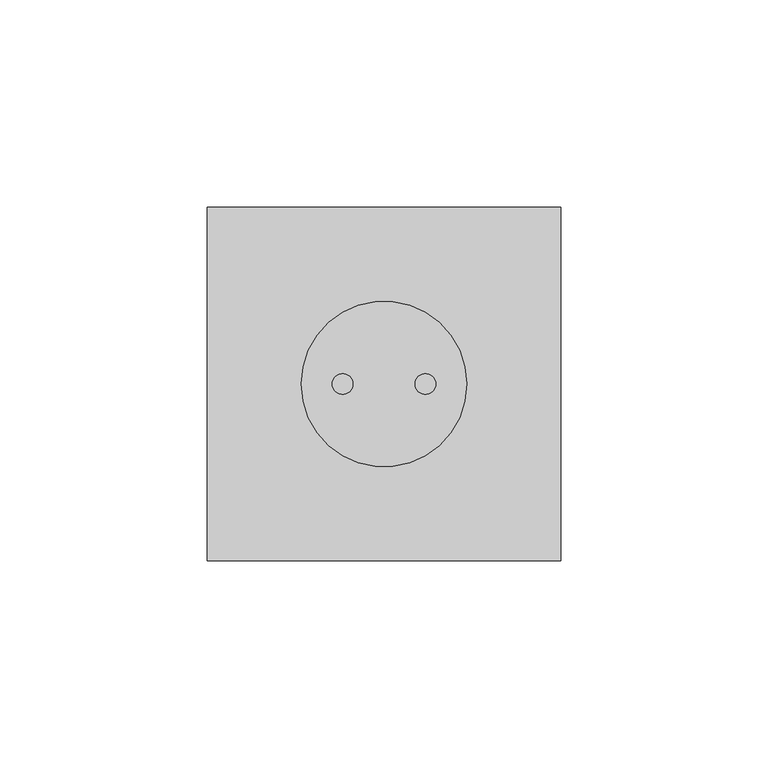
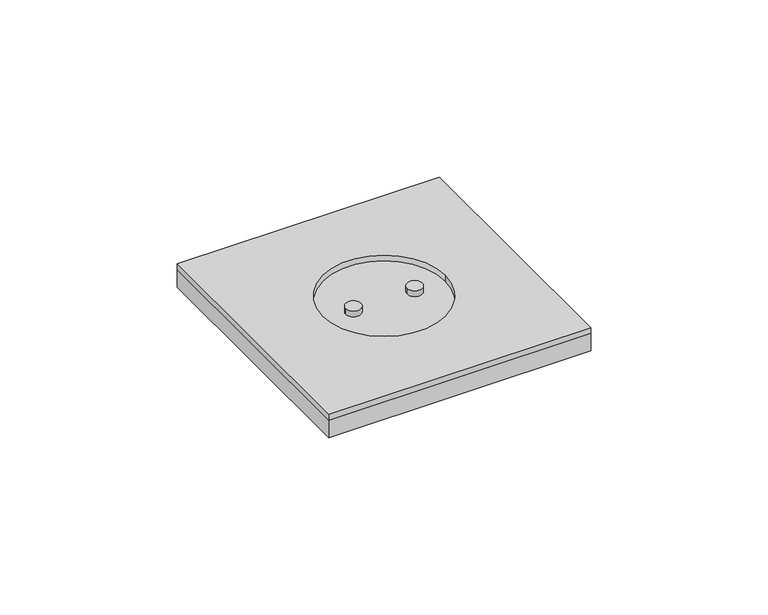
"""IFC4 building model written with IfcOpenShell, lengths in millimetres: proxy geometry, ZYR_05.02.02 Presa Terra : 03 Presa Previsió."""

import ifcopenshell
import ifcopenshell.guid

model = None  # the IFC model being written
_history = None  # IfcOwnerHistory: only IFC2X3 demands one
_inside = {}  # id of a spatial element -> (the spatial element, [elements in it])
_under = {}  # id of a project, library or spatial element -> (it, [spatial elements below it])
_declared = {}  # id of a project -> (the project, [libraries it declares])
_typed = {}  # id of a type object -> (the type object, [elements of that type])
_made_of = {}  # id of a material, layer set ... -> (it, [elements and type objects made of it])


def new_model(schema):
    """Start an empty IFC model of exactly this schema.

    Asked for "IFC4X3", IfcOpenShell would pick the latest addendum, in which some entities
    have other attributes; the version numbers below select the first issue.
    IFC2X3 requires an IfcOwnerHistory on every rooted entity: one is made here for all.
    """
    global model, _history
    if schema == "IFC4X3":
        model = ifcopenshell.file(schema_version=(4, 3, 0, 0))
    else:
        model = ifcopenshell.file(schema=schema)
    _inside.clear()
    _under.clear()
    _declared.clear()
    _typed.clear()
    _made_of.clear()
    _history = None
    if model.schema == "IFC2X3":
        org = make("IfcOrganization", Name="unknown")
        user = make(
            "IfcPersonAndOrganization",
            ThePerson=make("IfcPerson", FamilyName="unknown"),
            TheOrganization=org,
        )
        app = make(
            "IfcApplication",
            ApplicationDeveloper=org,
            Version="unknown",
            ApplicationFullName="unknown",
            ApplicationIdentifier="unknown",
        )
        _history = make(
            "IfcOwnerHistory",
            OwningUser=user,
            OwningApplication=app,
            ChangeAction="ADDED",
            CreationDate=0,
        )
    return model


def make(cls, **values):
    """One entity of the class cls with the attributes given. An attribute that is None is left unset."""
    return model.create_entity(
        cls, **{name: value for name, value in values.items() if value is not None}
    )


def rooted(cls, **values):
    """An entity with a GlobalId (a new one), such as an element, a storey or a relation."""
    return make(cls, GlobalId=ifcopenshell.guid.new(), OwnerHistory=_history, **values)


def si_unit(unit_type, name, prefix=None):
    """IfcSIUnit, for example si_unit("LENGTHUNIT", "METRE", prefix="MILLI")."""
    return make("IfcSIUnit", UnitType=unit_type, Prefix=prefix, Name=name)


def assignment(units):
    """IfcUnitAssignment: the units of a project."""
    return None if units is None else make("IfcUnitAssignment", Units=units)


def point(xyz):
    """IfcCartesianPoint."""
    return None if xyz is None else make("IfcCartesianPoint", Coordinates=xyz)


def direction(xyz):
    """IfcDirection."""
    return None if xyz is None else make("IfcDirection", DirectionRatios=xyz)


def frame(location, z_axis=None, x_axis=None):
    """IfcAxis2Placement3D, a coordinate frame: its origin and axes. An axis left out is left unset."""
    return make(
        "IfcAxis2Placement3D",
        Location=point(location),
        Axis=direction(z_axis),
        RefDirection=direction(x_axis),
    )


def frame_2d(location, x_axis=None):
    """IfcAxis2Placement2D, a coordinate frame in the plane: its origin and x axis."""
    return make(
        "IfcAxis2Placement2D", Location=point(location), RefDirection=direction(x_axis)
    )


def origin():
    """The frame at (0, 0, 0) with its axes left unset."""
    return frame((0.0, 0.0, 0.0))


def origin_with_axes():
    """The frame at (0, 0, 0) with the z axis (0, 0, 1) and the x axis (1, 0, 0) written out."""
    return frame((0.0, 0.0, 0.0), z_axis=(0.0, 0.0, 1.0), x_axis=(1.0, 0.0, 0.0))


def origin_2d():
    """The frame at (0, 0) in the plane with its x axis left unset."""
    return frame_2d((0.0, 0.0))


def place(relative_to, where):
    """IfcLocalPlacement: puts the frame where relative to a parent placement (None: the world)."""
    return make(
        "IfcLocalPlacement", PlacementRelTo=relative_to, RelativePlacement=where
    )


def context(
    kind, dimensions, precision=None, world=None, true_north=None, identifier=None
):
    """IfcGeometricRepresentationContext, for example the 3D "Model" context."""
    return make(
        "IfcGeometricRepresentationContext",
        ContextIdentifier=identifier,
        ContextType=kind,
        CoordinateSpaceDimension=dimensions,
        Precision=precision,
        WorldCoordinateSystem=world,
        TrueNorth=true_north,
    )


def project(units=None, contexts=None):
    """IfcProject with its units and contexts."""
    return rooted(
        "IfcProject",
        Name="project",
        RepresentationContexts=contexts,
        UnitsInContext=assignment(units),
    )


def spatial(cls, under=None, at=None, **own):
    """A site, building, storey or space (cls), placed at a placement, below another one or the project."""
    s = rooted(cls, ObjectPlacement=at, **own)
    if under is not None:
        _under.setdefault(under.id(), (under, []))[1].append(s)
    return s


def polyline(points):
    """IfcPolyline through the points."""
    return make("IfcPolyline", Points=[point(p) for p in points])


def circle_curve(where, radius):
    """IfcCircle in the frame where."""
    return make("IfcCircle", Position=where, Radius=radius)


def trimmed(basis, trim1, trim2, sense, master):
    """IfcTrimmedCurve: the piece of a basis curve between two trims."""
    return make(
        "IfcTrimmedCurve",
        BasisCurve=basis,
        Trim1=trim1,
        Trim2=trim2,
        SenseAgreement=sense,
        MasterRepresentation=master,
    )


def segment(curve, same_sense, transition):
    """IfcCompositeCurveSegment."""
    return make(
        "IfcCompositeCurveSegment",
        Transition=transition,
        SameSense=same_sense,
        ParentCurve=curve,
    )


def composite_curve(segments, self_intersect=None):
    """IfcCompositeCurve: segments joined end to end."""
    return make("IfcCompositeCurve", Segments=segments, SelfIntersect=self_intersect)


def outline(outer, holes=None, kind="AREA"):
    """IfcArbitraryClosedProfileDef: a profile drawn as a closed curve; with holes, ...WithVoids."""
    if holes is None:
        return make("IfcArbitraryClosedProfileDef", ProfileType=kind, OuterCurve=outer)
    return make(
        "IfcArbitraryProfileDefWithVoids",
        ProfileType=kind,
        OuterCurve=outer,
        InnerCurves=holes,
    )


def extrude(swept, where, along, depth):
    """IfcExtrudedAreaSolid: the profile swept, set in the frame where, extruded along a direction by depth."""
    return make(
        "IfcExtrudedAreaSolid",
        SweptArea=swept,
        Position=where,
        ExtrudedDirection=direction(along),
        Depth=depth,
    )


def shape(context_of_items, identifier, shape_type, items):
    """IfcShapeRepresentation: the items that make up one representation, for example the "Body"."""
    return make(
        "IfcShapeRepresentation",
        ContextOfItems=context_of_items,
        RepresentationIdentifier=identifier,
        RepresentationType=shape_type,
        Items=items,
    )


def source(mapping_origin, context_of_items, identifier, shape_type, items):
    """IfcRepresentationMap: a shape defined once, which mapped items show again and again."""
    return make(
        "IfcRepresentationMap",
        MappingOrigin=mapping_origin,
        MappedRepresentation=shape(context_of_items, identifier, shape_type, items),
    )


def transform(
    local_origin,
    x_axis=None,
    y_axis=None,
    z_axis=None,
    scale=None,
    scale2=None,
    scale3=None,
    uniform=True,
):
    """IfcCartesianTransformationOperator3D, or its non-uniform kind. x_axis, y_axis, z_axis: its Axis1, 2, 3."""
    if uniform:
        return make(
            "IfcCartesianTransformationOperator3D",
            Axis1=direction(x_axis),
            Axis2=direction(y_axis),
            LocalOrigin=point(local_origin),
            Scale=scale,
            Axis3=direction(z_axis),
        )
    return make(
        "IfcCartesianTransformationOperator3DnonUniform",
        Axis1=direction(x_axis),
        Axis2=direction(y_axis),
        LocalOrigin=point(local_origin),
        Scale=scale,
        Axis3=direction(z_axis),
        Scale2=scale2,
        Scale3=scale3,
    )


def mapped(mapping_source, mapping_target):
    """IfcMappedItem: shows the shape of a source again, moved by a transform."""
    return make(
        "IfcMappedItem", MappingSource=mapping_source, MappingTarget=mapping_target
    )


def made_of(thing, what):
    """Note that an element or type object is made of a material, layer set ...; save() writes the relation."""
    if what is not None:
        _made_of.setdefault(what.id(), (what, []))[1].append(thing)
    return thing


def element(
    cls,
    number,
    at=None,
    inside=None,
    cuts=None,
    type_object=None,
    material=None,
    context=None,
    identifier="Body",
    shape_type=None,
    held_by="IfcProductDefinitionShape",
    body=None,
    shapes=None,
    **own,
):
    """One element of the class cls, such as IfcWall. Its Tag is "e" and its number.

    at: its placement. inside: the storey or other place that contains it. cuts: it is an
    opening in that element (IfcRelVoidsElement). A single representation is given by context,
    identifier, shape_type and body (its items); several are given by shapes. held_by: the class
    of the entity that holds the representations. save() writes the other relations.
    """
    e = rooted(cls, Tag="e%d" % number, ObjectPlacement=at, **own)
    if body is not None:
        shapes = [shape(context, identifier, shape_type, body)]
    if shapes is not None:
        e.Representation = make(held_by, Representations=shapes)
    if inside is not None:
        _inside.setdefault(inside.id(), (inside, []))[1].append(e)
    if cuts is not None:
        rooted(
            "IfcRelVoidsElement", RelatingBuildingElement=cuts, RelatedOpeningElement=e
        )
    if type_object is not None:
        _typed.setdefault(type_object.id(), (type_object, []))[1].append(e)
    return made_of(e, material)


def aggregate(whole, parts):
    """IfcRelAggregates: a whole, such as a stair, and the parts it consists of."""
    return rooted("IfcRelAggregates", RelatingObject=whole, RelatedObjects=parts)


def save(model, path):
    """Write the relations noted so far, then the file.

    IfcRelAggregates (storeys below a building ...), IfcRelContainedInSpatialStructure (elements
    in a storey), IfcRelDefinesByType, IfcRelAssociatesMaterial and IfcRelDeclares: one each for
    every whole, place, type object, material and project.
    """
    for whole, parts in _under.values():
        aggregate(whole, parts)
    for where, things in _inside.values():
        rooted(
            "IfcRelContainedInSpatialStructure",
            RelatedElements=things,
            RelatingStructure=where,
        )
    for kind, things in _typed.values():
        rooted("IfcRelDefinesByType", RelatedObjects=things, RelatingType=kind)
    for what, things in _made_of.values():
        rooted("IfcRelAssociatesMaterial", RelatedObjects=things, RelatingMaterial=what)
    for by, libraries in _declared.values():
        rooted("IfcRelDeclares", RelatingContext=by, RelatedDefinitions=libraries)
    model.write(path)


def electrical_fixtures_0bcf1d46(model_context):
    return source(origin(), model_context, "Body", "SweptSolid", [
        extrude(outline(polyline([(42.75, 42.75), (42.75, -42.75), (-42.75, -42.75), (-42.75, 42.75), (42.75, 42.75)]), holes=[composite_curve([segment(trimmed(circle_curve(origin_2d(), 20.0), [point((-20.0, 0.0))], [point((20.0, 0.0))], True, "CARTESIAN"), True, "CONTINUOUS"), segment(trimmed(circle_curve(origin_2d(), 20.0), [point((20.0, 0.0))], [point((-20.0, 0.0))], True, "CARTESIAN"), True, "CONTINUOUS")], self_intersect=False)]), frame((0.0, 0.0, 6.0), z_axis=(0.0, 0.0, 1.0), x_axis=(1.0, 0.0, 0.0)), (0.0, 0.0, 1.0), 2.0),
        extrude(outline(composite_curve([segment(trimmed(circle_curve(frame_2d((-10.0, 0.0)), 2.5), [point((-12.5, 0.0))], [point((-7.5, 0.0))], False, "CARTESIAN"), True, "CONTINUOUS"), segment(trimmed(circle_curve(frame_2d((-10.0, 0.0)), 2.5), [point((-7.5, 0.0))], [point((-12.5, 0.0))], False, "CARTESIAN"), True, "CONTINUOUS")], self_intersect=False)), frame((0.0, 0.0, 6.0), z_axis=(0.0, 0.0, 1.0), x_axis=(1.0, 0.0, 0.0)), (0.0, 0.0, 1.0), 2.0),
        extrude(outline(composite_curve([segment(trimmed(circle_curve(frame_2d((10.0, 0.0)), 2.5), [point((7.5, 0.0))], [point((12.5, 0.0))], False, "CARTESIAN"), True, "CONTINUOUS"), segment(trimmed(circle_curve(frame_2d((10.0, 0.0)), 2.5), [point((12.5, 0.0))], [point((7.5, 0.0))], False, "CARTESIAN"), True, "CONTINUOUS")], self_intersect=False)), frame((0.0, 0.0, 6.0), z_axis=(0.0, 0.0, 1.0), x_axis=(1.0, 0.0, 0.0)), (0.0, 0.0, 1.0), 2.0),
        extrude(outline(polyline([(42.75, 42.75), (42.75, -42.75), (-42.75, -42.75), (-42.75, 42.75), (42.75, 42.75)])), origin_with_axes(), (0.0, 0.0, 1.0), 6.0),
    ])


if __name__ == "__main__":
    model = new_model("IFC4")
    model_context = context("Model", 3, world=origin())
    ifc_project = project(units=[si_unit("LENGTHUNIT", "METRE", prefix="MILLI")], contexts=[model_context])
    site = spatial("IfcSite", under=ifc_project)
    building = spatial("IfcBuilding", under=site)
    placement = place(None, origin())
    electrical_fixtures_shape = electrical_fixtures_0bcf1d46(model_context)
    element("IfcBuildingElementProxy", 1, Name="ZYR_05.02.02 Presa Terra : 03 Presa Previsió", ObjectType="ZYR_05.02.02 Presa Terra : 03 Presa Previsió", at=placement, inside=building, context=model_context, shape_type="MappedRepresentation", body=[
        mapped(electrical_fixtures_shape, transform((0.0, 0.0, 0.0), x_axis=(1.0, 0.0, 0.0), y_axis=(0.0, 1.0, 0.0), z_axis=(0.0, 0.0, 1.0))),
    ])
    save(model, "model.ifc")
